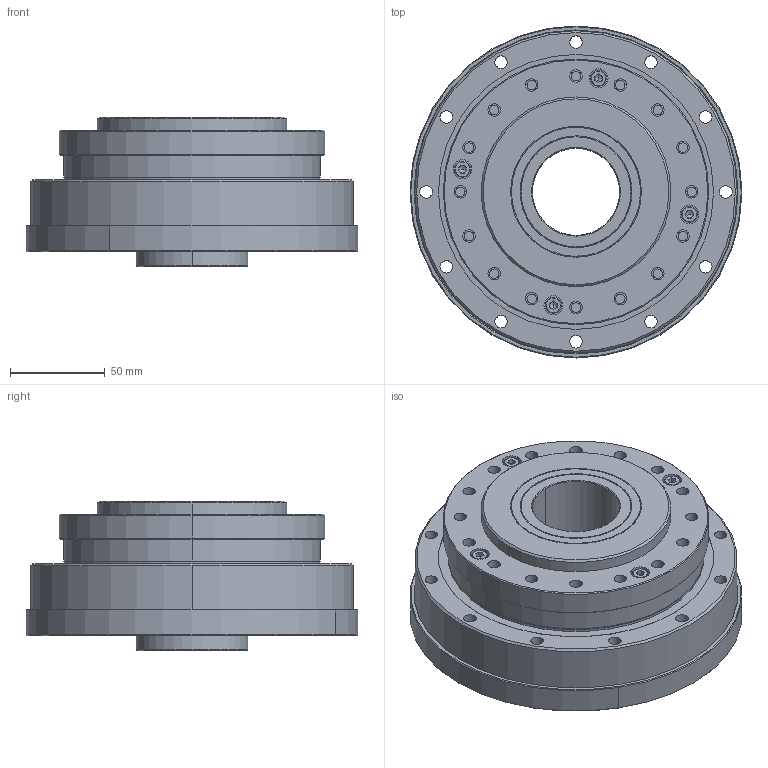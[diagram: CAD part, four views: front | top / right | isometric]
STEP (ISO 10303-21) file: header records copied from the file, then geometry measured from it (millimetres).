
FILE_DESCRIPTION (( 'STEP AP203' ), '1' );
FILE_NAME ('BHS-40-XXX-U-¢ó.STEP', '2019-01-15T05:52:24', ( 'User' ), ( 'China' ), 'SwSTEP 2.0', 'SolidWorks 2015', '' );
FILE_SCHEMA (( 'CONFIG_CONTROL_DESIGN' ));
Length unit declared in the file: millimetre
Products named in the file (1): BHS-40-XXX-U-ｋ
Bounding box: 175 x 175 x 79 mm (x, y, z)
Surface area: 121764.2 mm2 (no closed solid volume)
Topology: 0 solids, 19 shells, 295 faces, 844 edges, 560 vertices
Faces by surface type: cylinder 152, plane 87, cone 44, torus 12
Entity records: 9799 total; most frequent: DIRECTION 1876, CARTESIAN_POINT 1692, ORIENTED_EDGE 1386, EDGE_CURVE 836, AXIS2_PLACEMENT_3D 744, VERTEX_POINT 560, CIRCLE 448, EDGE_LOOP 396
